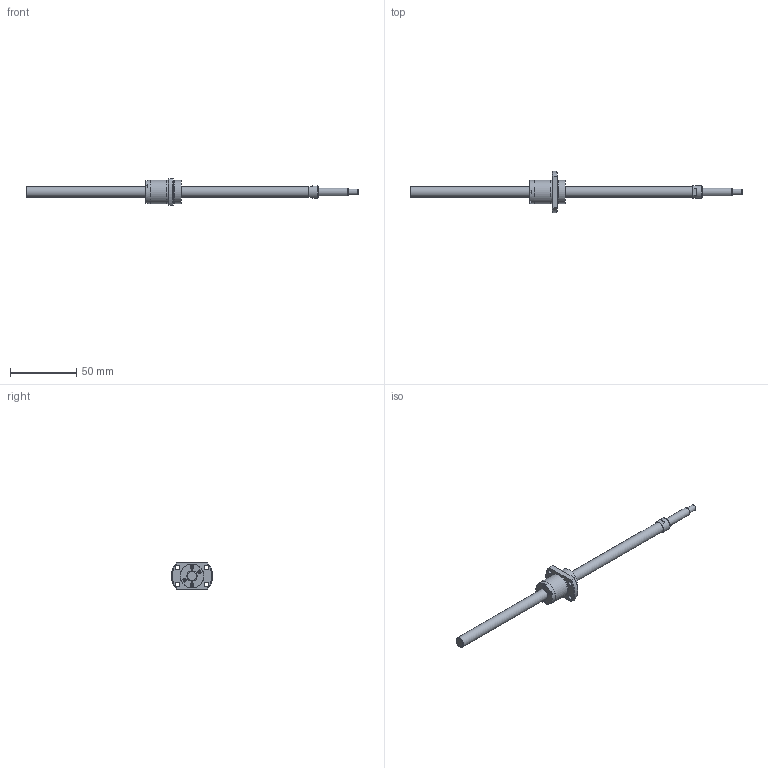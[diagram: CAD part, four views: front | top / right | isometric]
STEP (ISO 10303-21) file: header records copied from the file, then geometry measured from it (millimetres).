
FILE_DESCRIPTION(/* description */ ('STEP AP214'),/* implementation_level */ '2;1');
FILE_NAME(/* name */ 'SG0812-207R250C5A0X(90)',/* time_stamp */ '2026-07-23T22:53:01+02:00',/* author */ ('License CC BY-ND 4.0'),/* organization */ ('CADENAS'),/* preprocessor_version */ 'ST-DEVELOPER v20',/* originating_system */ 'PARTsolutions',/* authorisation */ ' ');
FILE_SCHEMA (('AUTOMOTIVE_DESIGN {1 0 10303 214 3 1 1}'));
Length unit declared in the file: millimetre
Products named in the file (3): SG0812-207R250C5A0X(90); SG0812-207R250C5A_shaft; SG0812 C5_nut
Assembly tree (2 placements, depth 2):
  SG0812-207R250C5A0X(90)
    SG0812-207R250C5A_shaft
    SG0812 C5_nut
Bounding box: 250 x 30.91 x 20 mm (x, y, z)
Volume: 18409.9 mm3; surface area: 9749.1 mm2
Topology: 2 solids, 2 shells, 100 faces, 231 edges, 150 vertices
Faces by surface type: plane 63, cylinder 24, cone 12, torus 1
Full cylindrical faces by diameter (mm): 2.25 x4, 3.4 x4, 4.5 x1, 6 x1, 8 x2, 9.5 x1, 17.5 x3, 18 x2
Entity records: 2781 total; most frequent: CARTESIAN_POINT 477, DIRECTION 472, ORIENTED_EDGE 404, EDGE_CURVE 202, AXIS2_PLACEMENT_3D 175, EDGE_LOOP 152, FACE_BOUND 152, VERTEX_POINT 148
